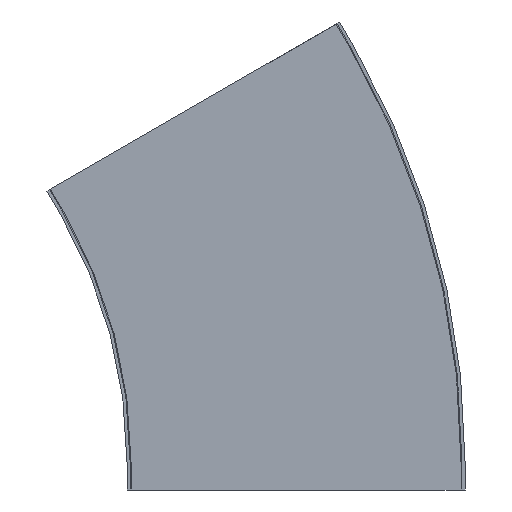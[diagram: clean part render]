
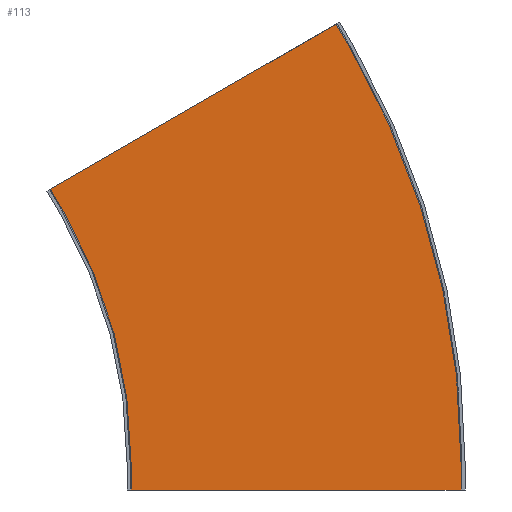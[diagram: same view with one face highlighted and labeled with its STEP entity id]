
A CAD part, front view. The second image highlights one B-rep face of the part: STEP entity #113.
In plain terms, the highlighted planar face has unit normal (0, -1, 0).
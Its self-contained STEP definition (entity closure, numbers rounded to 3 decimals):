
#5 = LINE ( 'NONE', #1500, #546 ) ;
#17 = ORIENTED_EDGE ( 'NONE', *, *, #320, .F. ) ;
#47 = EDGE_CURVE ( 'NONE', #1393, #422, #2342, .T. ) ;
#55 = DIRECTION ( 'NONE',  ( 0., 1., 0. ) ) ;
#66 = DIRECTION ( 'NONE',  ( 0., 0., 1. ) ) ;
#99 = LINE ( 'NONE', #332, #786 ) ;
#113 = ADVANCED_FACE ( 'NONE', ( #275 ), #467, .F. ) ;
#141 = AXIS2_PLACEMENT_3D ( 'NONE', #539, #2269, #1120 ) ;
#181 = DIRECTION ( 'NONE',  ( 0., 0., 1. ) ) ;
#248 = DIRECTION ( 'NONE',  ( -1., 0., 0. ) ) ;
#275 = FACE_OUTER_BOUND ( 'NONE', #952, .T. ) ;
#291 = VERTEX_POINT ( 'NONE', #926 ) ;
#320 = EDGE_CURVE ( 'NONE', #432, #1753, #600, .T. ) ;
#332 = CARTESIAN_POINT ( 'NONE',  ( -26.25, -68.25, 45.466 ) ) ;
#398 = ORIENTED_EDGE ( 'NONE', *, *, #910, .T. ) ;
#422 = VERTEX_POINT ( 'NONE', #951 ) ;
#432 = VERTEX_POINT ( 'NONE', #1327 ) ;
#467 = PLANE ( 'NONE',  #692 ) ;
#499 = CARTESIAN_POINT ( 'NONE',  ( 807.299, -68.25, 526.716 ) ) ;
#510 = CARTESIAN_POINT ( 'NONE',  ( 1357.226, -68.25, 844.216 ) ) ;
#539 = CARTESIAN_POINT ( 'NONE',  ( 0., -68.25, 0. ) ) ;
#546 = VECTOR ( 'NONE', #181, 1000. ) ;
#600 = CIRCLE ( 'NONE', #141, 1597.5 ) ;
#664 = VECTOR ( 'NONE', #1417, 1000. ) ;
#692 = AXIS2_PLACEMENT_3D ( 'NONE', #2339, #2022, #1249 ) ;
#753 = EDGE_CURVE ( 'NONE', #422, #1206, #909, .T. ) ;
#786 = VECTOR ( 'NONE', #2079, 1000. ) ;
#909 = LINE ( 'NONE', #1627, #1776 ) ;
#910 = EDGE_CURVE ( 'NONE', #1393, #1753, #5, .T. ) ;
#926 = CARTESIAN_POINT ( 'NONE',  ( 807.299, -68.25, 526.716 ) ) ;
#951 = CARTESIAN_POINT ( 'NONE',  ( 962.5, -68.25, -52.5 ) ) ;
#952 = EDGE_LOOP ( 'NONE', ( #1074, #1311, #2142, #398, #17, #2352, #2008, #959 ) ) ;
#959 = ORIENTED_EDGE ( 'NONE', *, *, #1305, .T. ) ;
#1017 = CARTESIAN_POINT ( 'NONE',  ( 0., -68.25, 0. ) ) ;
#1024 = CARTESIAN_POINT ( 'NONE',  ( 1357.226, -68.25, 844.216 ) ) ;
#1074 = ORIENTED_EDGE ( 'NONE', *, *, #1192, .T. ) ;
#1120 = DIRECTION ( 'NONE',  ( -1., 0., 0. ) ) ;
#1156 = VERTEX_POINT ( 'NONE', #1775 ) ;
#1192 = EDGE_CURVE ( 'NONE', #1156, #1206, #1326, .T. ) ;
#1206 = VERTEX_POINT ( 'NONE', #2177 ) ;
#1226 = DIRECTION ( 'NONE',  ( 0.5, 0., -0.866 ) ) ;
#1229 = LINE ( 'NONE', #499, #2363 ) ;
#1249 = DIRECTION ( 'NONE',  ( -1., 0., 0. ) ) ;
#1305 = EDGE_CURVE ( 'NONE', #291, #1156, #1229, .T. ) ;
#1311 = ORIENTED_EDGE ( 'NONE', *, *, #753, .F. ) ;
#1326 = CIRCLE ( 'NONE', #1400, 962.5 ) ;
#1327 = CARTESIAN_POINT ( 'NONE',  ( 1383.476, -68.25, 798.75 ) ) ;
#1330 = CARTESIAN_POINT ( 'NONE',  ( 1597.5, -68.25, 0. ) ) ;
#1369 = CARTESIAN_POINT ( 'NONE',  ( 1597.5, -68.25, -52.5 ) ) ;
#1393 = VERTEX_POINT ( 'NONE', #1369 ) ;
#1400 = AXIS2_PLACEMENT_3D ( 'NONE', #1017, #55, #248 ) ;
#1417 = DIRECTION ( 'NONE',  ( -1., 0., 0. ) ) ;
#1500 = CARTESIAN_POINT ( 'NONE',  ( 1597.5, -68.25, -52.5 ) ) ;
#1627 = CARTESIAN_POINT ( 'NONE',  ( 962.5, -68.25, -52.5 ) ) ;
#1753 = VERTEX_POINT ( 'NONE', #1330 ) ;
#1775 = CARTESIAN_POINT ( 'NONE',  ( 833.549, -68.25, 481.25 ) ) ;
#1776 = VECTOR ( 'NONE', #66, 1000. ) ;
#1781 = DIRECTION ( 'NONE',  ( 0.5, 0., -0.866 ) ) ;
#1790 = CARTESIAN_POINT ( 'NONE',  ( 0., -68.25, -52.5 ) ) ;
#2008 = ORIENTED_EDGE ( 'NONE', *, *, #2036, .F. ) ;
#2022 = DIRECTION ( 'NONE',  ( 0., 1., 0. ) ) ;
#2036 = EDGE_CURVE ( 'NONE', #291, #2411, #99, .T. ) ;
#2079 = DIRECTION ( 'NONE',  ( 0.866, 0., 0.5 ) ) ;
#2142 = ORIENTED_EDGE ( 'NONE', *, *, #47, .F. ) ;
#2156 = EDGE_CURVE ( 'NONE', #2411, #432, #2409, .T. ) ;
#2177 = CARTESIAN_POINT ( 'NONE',  ( 962.5, -68.25, 0. ) ) ;
#2269 = DIRECTION ( 'NONE',  ( 0., 1., 0. ) ) ;
#2339 = CARTESIAN_POINT ( 'NONE',  ( 833.549, -68.25, 481.25 ) ) ;
#2342 = LINE ( 'NONE', #1790, #664 ) ;
#2348 = VECTOR ( 'NONE', #1781, 1000. ) ;
#2352 = ORIENTED_EDGE ( 'NONE', *, *, #2156, .F. ) ;
#2363 = VECTOR ( 'NONE', #1226, 1000. ) ;
#2409 = LINE ( 'NONE', #1024, #2348 ) ;
#2411 = VERTEX_POINT ( 'NONE', #510 ) ;
